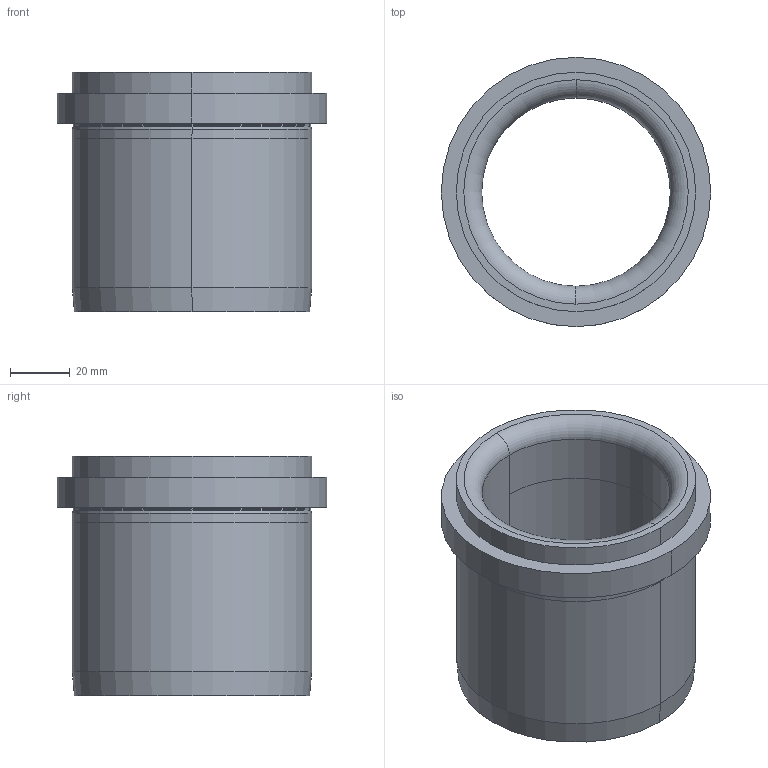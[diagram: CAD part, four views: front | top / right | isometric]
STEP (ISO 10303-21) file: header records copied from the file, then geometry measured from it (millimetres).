
FILE_DESCRIPTION(('CATIA V5 STEP'),'2;1');
FILE_NAME('\\GSBFILE\data\URETIM\3D DATALAR\Step Dosyaları\Kılavuz Elemanları\G211-02-063-080.stp','2020-07-07T05:42:04+00:00',('none'),('none'),'CATIA Version 5-6 Release 2019 SP3','CATIA V5 STEP AP203 v1','none');
FILE_SCHEMA(('CONFIG_CONTROL_DESIGN'));
Length unit declared in the file: millimetre
Products named in the file (1): Part1
Bounding box: 90 x 90 x 80 mm (x, y, z)
Volume: 163602 mm3; surface area: 42051.9 mm2
Topology: 1 solids, 1 shells, 32 faces, 67 edges, 39 vertices
Faces by surface type: cylinder 14, torus 8, cone 6, plane 4
Entity records: 852 total; most frequent: CARTESIAN_POINT 175, ORIENTED_EDGE 134, DIRECTION 109, EDGE_CURVE 67, AXIS2_PLACEMENT_3D 66, CIRCLE 43, VERTEX_POINT 39, EDGE_LOOP 36
